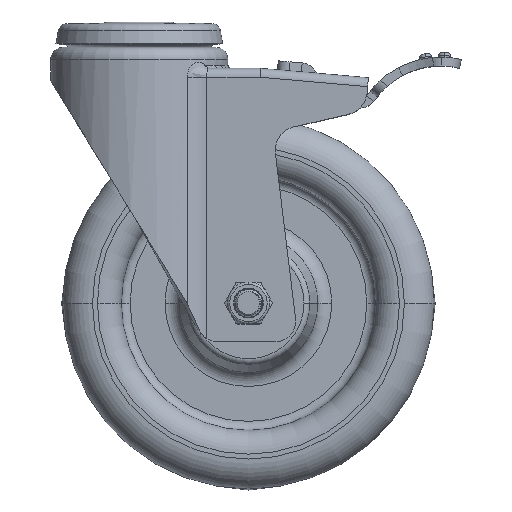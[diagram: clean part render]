
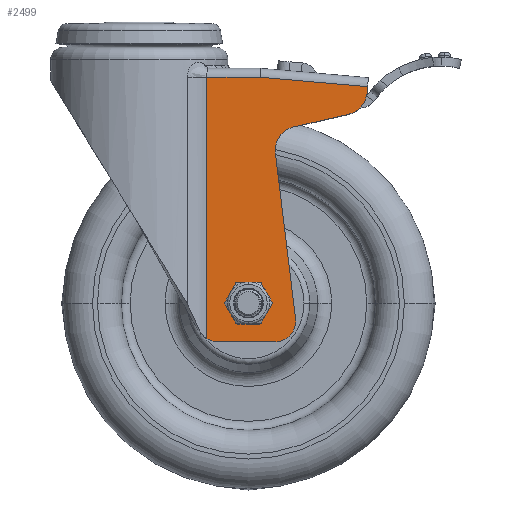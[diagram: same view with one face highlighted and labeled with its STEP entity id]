
A CAD part, top view. The second image highlights one B-rep face of the part: STEP entity #2499.
In plain terms, the highlighted planar face has unit normal (0, 0, 1).
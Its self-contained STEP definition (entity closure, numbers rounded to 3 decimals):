
#511=DIRECTION('',(0.,-1.,0.));
#512=VECTOR('',#511,87.455);
#513=CARTESIAN_POINT('',(22.58,-21.8,23.));
#514=LINE('',#513,#512);
#515=DIRECTION('',(-1.,0.,0.));
#516=VECTOR('',#515,17.889);
#517=CARTESIAN_POINT('',(40.469,-21.8,23.));
#518=LINE('',#517,#516);
#519=DIRECTION('',(-0.996,0.087,0.));
#520=VECTOR('',#519,36.);
#521=CARTESIAN_POINT('',(76.332,-24.938,23.));
#522=LINE('',#521,#520);
#523=DIRECTION('',(-0.087,-0.996,0.));
#524=VECTOR('',#523,2.157);
#525=CARTESIAN_POINT('',(76.332,-24.938,23.));
#526=LINE('',#525,#524);
#527=CARTESIAN_POINT('',(68.174,-26.389,23.));
#528=DIRECTION('',(0.,0.,1.));
#529=DIRECTION('',(0.225,-0.974,0.));
#530=AXIS2_PLACEMENT_3D('',#527,#528,#529);
#532=DIRECTION('',(-0.974,-0.225,0.));
#533=VECTOR('',#532,18.805);
#534=CARTESIAN_POINT('',(69.974,-34.184,23.));
#535=LINE('',#534,#533);
#536=CARTESIAN_POINT('',(53.451,-46.209,23.));
#537=DIRECTION('',(0.,0.,1.));
#538=DIRECTION('',(-0.225,0.974,0.));
#539=AXIS2_PLACEMENT_3D('',#536,#537,#538);
#541=DIRECTION('',(0.121,-0.993,0.));
#542=VECTOR('',#541,55.686);
#543=CARTESIAN_POINT('',(45.51,-47.176,23.));
#544=LINE('',#543,#542);
#545=CARTESIAN_POINT('',(45.289,-103.3,23.));
#546=DIRECTION('',(0.,0.,1.));
#547=DIRECTION('',(0.,-1.,0.));
#548=AXIS2_PLACEMENT_3D('',#545,#546,#547);
#550=DIRECTION('',(1.,0.,0.));
#551=VECTOR('',#550,18.756);
#552=CARTESIAN_POINT('',(26.534,-110.3,23.));
#553=LINE('',#552,#551);
#554=CARTESIAN_POINT('',(26.534,-102.3,23.));
#555=DIRECTION('',(0.,0.,-1.));
#556=DIRECTION('',(0.,-1.,0.));
#557=AXIS2_PLACEMENT_3D('',#554,#555,#556);
#559=CARTESIAN_POINT('',(36.5,-97.3,23.));
#560=DIRECTION('',(0.,0.,1.));
#561=DIRECTION('',(1.,0.,0.));
#562=AXIS2_PLACEMENT_3D('',#559,#560,#561);
#564=CARTESIAN_POINT('',(36.5,-97.3,23.));
#565=DIRECTION('',(0.,0.,1.));
#566=DIRECTION('',(-1.,0.,0.));
#567=AXIS2_PLACEMENT_3D('',#564,#565,#566);
#1445=CARTESIAN_POINT('',(40.469,-21.8,23.));
#1446=CARTESIAN_POINT('',(22.58,-21.8,23.));
#1447=VERTEX_POINT('',#1445);
#1448=VERTEX_POINT('',#1446);
#1491=CARTESIAN_POINT('',(76.332,-24.938,23.));
#1492=VERTEX_POINT('',#1491);
#1511=CARTESIAN_POINT('',(22.58,-109.255,23.));
#1512=VERTEX_POINT('',#1511);
#1579=CARTESIAN_POINT('',(76.144,-27.087,23.));
#1580=VERTEX_POINT('',#1579);
#1581=CARTESIAN_POINT('',(69.974,-34.184,23.));
#1582=VERTEX_POINT('',#1581);
#1583=CARTESIAN_POINT('',(51.651,-38.414,23.));
#1584=VERTEX_POINT('',#1583);
#1585=CARTESIAN_POINT('',(45.51,-47.176,23.));
#1586=VERTEX_POINT('',#1585);
#1587=CARTESIAN_POINT('',(52.238,-102.454,23.));
#1588=VERTEX_POINT('',#1587);
#1589=CARTESIAN_POINT('',(45.289,-110.3,23.));
#1590=VERTEX_POINT('',#1589);
#1615=CARTESIAN_POINT('',(26.534,-110.3,23.));
#1617=VERTEX_POINT('',#1615);
#1627=CARTESIAN_POINT('',(41.5,-97.3,23.));
#1628=CARTESIAN_POINT('',(31.5,-97.3,23.));
#1629=VERTEX_POINT('',#1627);
#1630=VERTEX_POINT('',#1628);
#2465=CARTESIAN_POINT('',(0.,0.,23.));
#2466=DIRECTION('',(0.,0.,1.));
#2467=DIRECTION('',(1.,0.,0.));
#2468=AXIS2_PLACEMENT_3D('',#2465,#2466,#2467);
#2469=PLANE('',#2468);
#2471=ORIENTED_EDGE('',*,*,#2470,.F.);
#2473=ORIENTED_EDGE('',*,*,#2472,.F.);
#2475=ORIENTED_EDGE('',*,*,#2474,.F.);
#2477=ORIENTED_EDGE('',*,*,#2476,.T.);
#2479=ORIENTED_EDGE('',*,*,#2478,.F.);
#2481=ORIENTED_EDGE('',*,*,#2480,.T.);
#2483=ORIENTED_EDGE('',*,*,#2482,.T.);
#2485=ORIENTED_EDGE('',*,*,#2484,.T.);
#2487=ORIENTED_EDGE('',*,*,#2486,.F.);
#2489=ORIENTED_EDGE('',*,*,#2488,.F.);
#2490=ORIENTED_EDGE('',*,*,#2456,.T.);
#2491=EDGE_LOOP('',(#2471,#2473,#2475,#2477,#2479,#2481,#2483,#2485,#2487,#2489,
#2490));
#2492=FACE_OUTER_BOUND('',#2491,.F.);
#2494=ORIENTED_EDGE('',*,*,#2493,.T.);
#2496=ORIENTED_EDGE('',*,*,#2495,.T.);
#2497=EDGE_LOOP('',(#2494,#2496));
#2498=FACE_BOUND('',#2497,.F.);
#531=CIRCLE('',#530,8.);
#540=CIRCLE('',#539,8.);
#549=CIRCLE('',#548,7.);
#558=CIRCLE('',#557,8.);
#563=CIRCLE('',#562,5.);
#568=CIRCLE('',#567,5.);
#2456=EDGE_CURVE('',#1617,#1512,#558,.T.);
#2470=EDGE_CURVE('',#1448,#1512,#514,.T.);
#2472=EDGE_CURVE('',#1447,#1448,#518,.T.);
#2474=EDGE_CURVE('',#1492,#1447,#522,.T.);
#2476=EDGE_CURVE('',#1492,#1580,#526,.T.);
#2478=EDGE_CURVE('',#1582,#1580,#531,.T.);
#2480=EDGE_CURVE('',#1582,#1584,#535,.T.);
#2482=EDGE_CURVE('',#1584,#1586,#540,.T.);
#2484=EDGE_CURVE('',#1586,#1588,#544,.T.);
#2486=EDGE_CURVE('',#1590,#1588,#549,.T.);
#2488=EDGE_CURVE('',#1617,#1590,#553,.T.);
#2493=EDGE_CURVE('',#1629,#1630,#563,.T.);
#2495=EDGE_CURVE('',#1630,#1629,#568,.T.);
#2499=ADVANCED_FACE('',(#2492,#2498),#2469,.T.);
